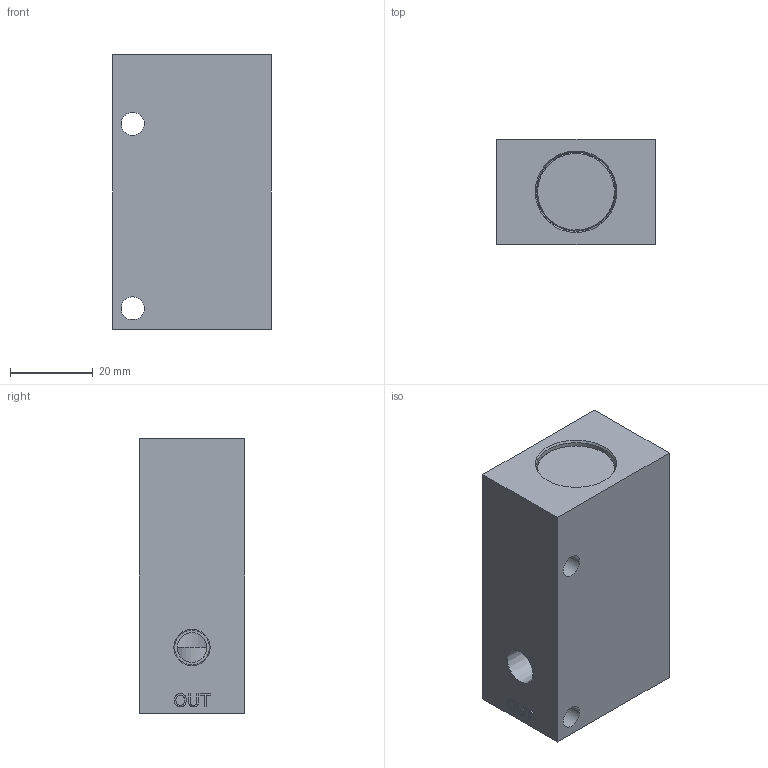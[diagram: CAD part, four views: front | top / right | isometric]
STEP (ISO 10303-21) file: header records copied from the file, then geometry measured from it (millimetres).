
FILE_DESCRIPTION(/* description */ (''),/* implementation_level */ '2;1');
FILE_NAME(/* name */ 'L:\ALADCO\Advertising\3D Content\Valves\Step Files - 2014-11-19 thru Present\42120X.stp',/* time_stamp */ '2014-11-19T16:04:49-06:00',/* author */ ('dmatz'),/* organization */ ('Aladdin Eng. & Manf. Inc.'),/* preprocessor_version */ 'ST-DEVELOPER v15.2',/* originating_system */ 'Autodesk Inventor 2014',/* authorisation */ '0 in^3');
FILE_SCHEMA (('AUTOMOTIVE_DESIGN { 1 0 10303 214 3 1 1 }'));
Length unit declared in the file: inch
Products named in the file (4): 551200NPTF; 551204; 551202; 521201
Bounding box: 38.1 x 25.4 x 66.24 mm (x, y, z)
Volume: 52646.3 mm3; surface area: 18249.6 mm2
Topology: 3 solids, 3 shells, 167 faces, 390 edges, 257 vertices
Faces by surface type: plane 95, bspline 26, cylinder 23, cone 12, torus 11
Full cylindrical faces by diameter (mm): 1.499 x1, 5.556 x2, 7.137 x1, 7.144 x3, 7.938 x2, 11.176 x1, 11.735 x1, 12.294 x1, 13.792 x1, 15.875 x1, 16.51 x2, 17.462 x1, 18.999 x4, 19.05 x2
Entity records: 4966 total; most frequent: CARTESIAN_POINT 1313, ORIENTED_EDGE 648, DIRECTION 634, EDGE_CURVE 324, EDGE_LOOP 256, VERTEX_POINT 240, AXIS2_PLACEMENT_3D 217, LINE 200
